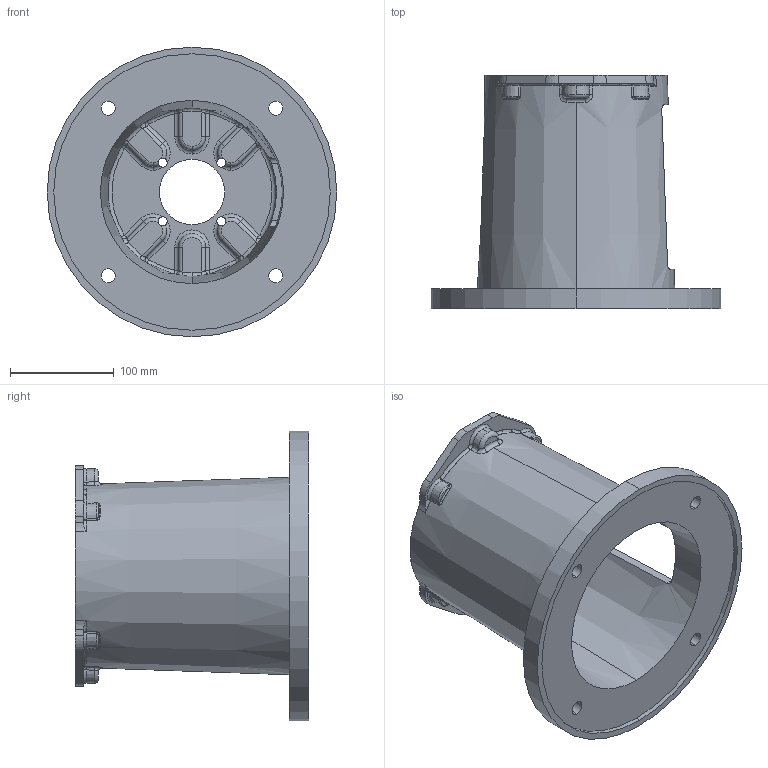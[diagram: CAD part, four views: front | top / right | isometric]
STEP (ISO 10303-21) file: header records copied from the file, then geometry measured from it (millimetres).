
FILE_DESCRIPTION (( 'STEP AP203' ), '1' );
FILE_NAME ('M2848663MS.STEP', '2015-01-19T16:31:02', ( '' ), ( '' ), 'SwSTEP 2.0', 'SolidWorks 2014', '' );
FILE_SCHEMA (( 'CONFIG_CONTROL_DESIGN' ));
Length unit declared in the file: inch
Products named in the file (1): M2848663MS
Bounding box: 279.4 x 225.3 x 279.4 mm (x, y, z)
Volume: 1586748.3 mm3; surface area: 360050.3 mm2
Topology: 1 solids, 1 shells, 346 faces, 884 edges, 519 vertices
Faces by surface type: torus 109, cylinder 82, bspline 64, plane 45, sphere 24, cone 22
Entity records: 14261 total; most frequent: CARTESIAN_POINT 6302, ORIENTED_EDGE 1728, DIRECTION 1654, EDGE_CURVE 864, AXIS2_PLACEMENT_3D 749, VERTEX_POINT 519, CIRCLE 466, EDGE_LOOP 365
